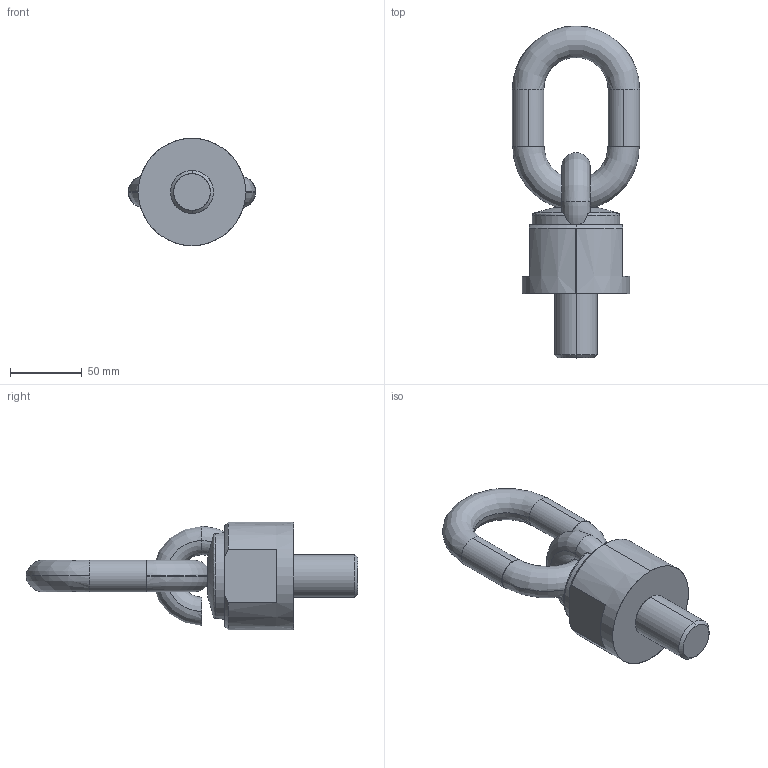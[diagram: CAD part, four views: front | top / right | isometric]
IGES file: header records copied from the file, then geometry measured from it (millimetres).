
Start section: START RECORD GO HERE.
Global section: file name: C8000503045.igs; native system: DASSAULT SYSTEMES CATIA V5 R20 - www.3ds.com; preprocessor: CATIA Version 5 Release 20 ; author: Utente; organization: NB04-ASUS; date: 20200412.161402; units: millimetre
Bounding box: 89 x 232 x 75 mm (x, y, z)
Surface area: 49317.3 mm2 (no closed solid volume)
Topology: 0 solids, 0 shells, 42 faces, 237 edges, 237 vertices
Faces by surface type: revolution 30, extrusion 12
